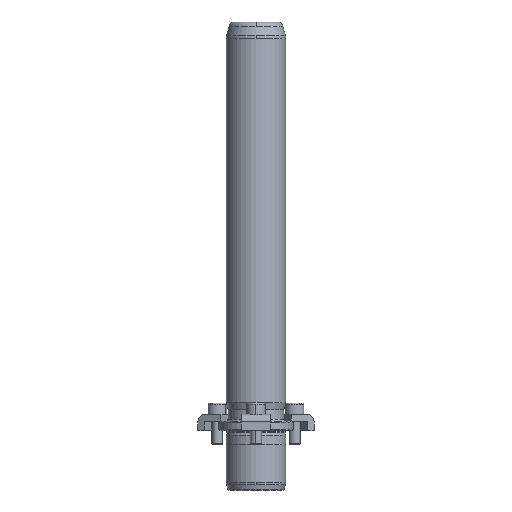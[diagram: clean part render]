
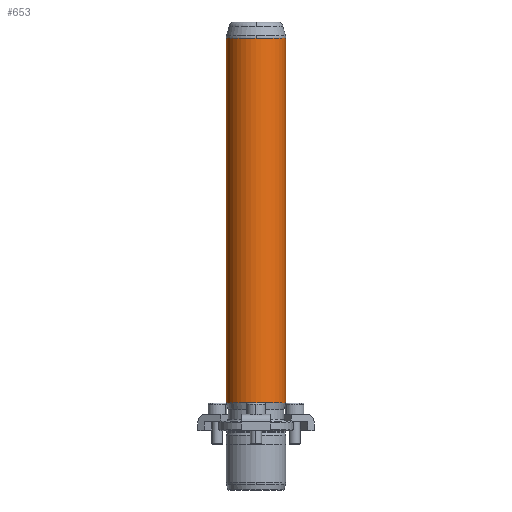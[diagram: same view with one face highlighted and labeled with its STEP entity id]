
A CAD part, front view. The second image highlights one B-rep face of the part: STEP entity #653.
In plain terms, the highlighted cylindrical face has radius 16 mm (diameter 32 mm), a partial arc.
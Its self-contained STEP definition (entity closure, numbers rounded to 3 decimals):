
#566=CARTESIAN_POINT('',(0.0,-16.,211.342));
#567=VERTEX_POINT('',#566);
#594=CARTESIAN_POINT('',(-16.0,0.,211.342));
#595=VERTEX_POINT('',#594);
#603=CARTESIAN_POINT('',(0.0,0.,211.342));
#604=DIRECTION('',(0.0,0.0,1.0));
#605=DIRECTION('',(1.0,0.0,0.0));
#606=AXIS2_PLACEMENT_3D('',#603,#604,#605);
#607=CIRCLE('',#606,16.0);
#608=EDGE_CURVE('',#595,#567,#607,.T.);
#613=CARTESIAN_POINT('',(0.0,0.,113.171));
#614=DIRECTION('',(0.0,0.,1.0));
#615=DIRECTION('',(1.0,0.0,0.0));
#616=AXIS2_PLACEMENT_3D('',#613,#614,#615);
#617=CYLINDRICAL_SURFACE('',#616,16.0);
#618=CARTESIAN_POINT('',(16.0,0.,211.342));
#619=VERTEX_POINT('',#618);
#620=CARTESIAN_POINT('',(16.0,0.,15.0));
#621=VERTEX_POINT('',#620);
#622=CARTESIAN_POINT('',(16.0,0.,211.342));
#623=DIRECTION('',(0.0,0.0,-1.0));
#624=VECTOR('',#623,196.342);
#625=LINE('',#622,#624);
#626=EDGE_CURVE('',#619,#621,#625,.T.);
#627=ORIENTED_EDGE('',*,*,#626,.F.);
#628=CARTESIAN_POINT('',(0.0,0.,211.342));
#629=DIRECTION('',(0.0,0.0,1.0));
#630=DIRECTION('',(1.0,0.0,0.0));
#631=AXIS2_PLACEMENT_3D('',#628,#629,#630);
#632=CIRCLE('',#631,16.0);
#633=EDGE_CURVE('',#567,#619,#632,.T.);
#634=ORIENTED_EDGE('',*,*,#633,.F.);
#635=ORIENTED_EDGE('',*,*,#608,.F.);
#636=CARTESIAN_POINT('',(-16.0,0.,15.0));
#637=VERTEX_POINT('',#636);
#638=CARTESIAN_POINT('',(-16.0,0.,211.342));
#639=DIRECTION('',(0.0,0.0,-1.0));
#640=VECTOR('',#639,196.342);
#641=LINE('',#638,#640);
#642=EDGE_CURVE('',#595,#637,#641,.T.);
#643=ORIENTED_EDGE('',*,*,#642,.T.);
#644=CARTESIAN_POINT('',(0.0,0.,15.0));
#645=DIRECTION('',(0.0,0.0,1.0));
#646=DIRECTION('',(1.0,0.0,0.0));
#647=AXIS2_PLACEMENT_3D('',#644,#645,#646);
#648=CIRCLE('',#647,16.0);
#649=EDGE_CURVE('',#637,#621,#648,.T.);
#650=ORIENTED_EDGE('',*,*,#649,.T.);
#651=EDGE_LOOP('',(#627,#634,#635,#643,#650));
#652=FACE_OUTER_BOUND('',#651,.T.);
#653=ADVANCED_FACE('',(#652),#617,.T.);
